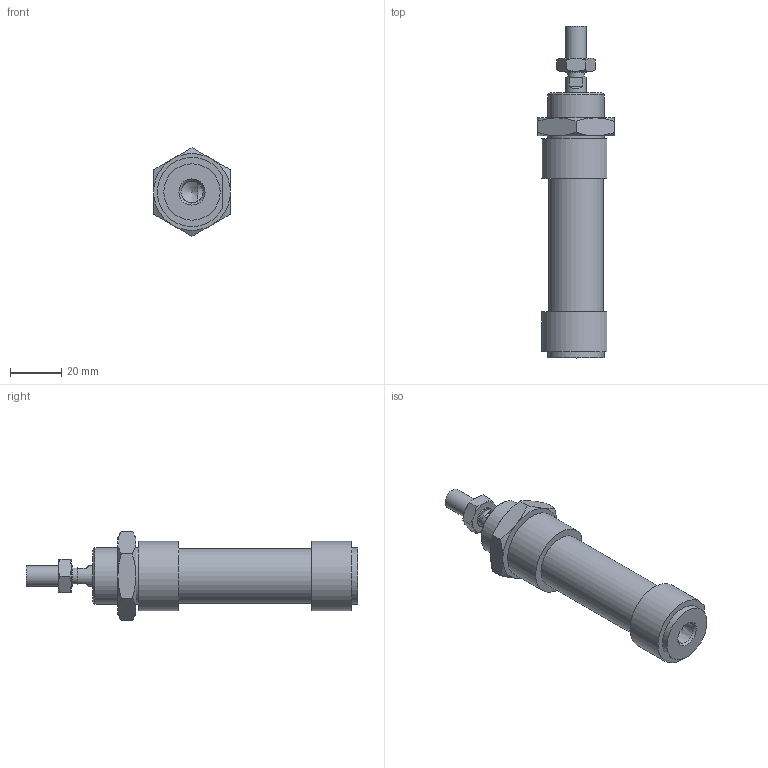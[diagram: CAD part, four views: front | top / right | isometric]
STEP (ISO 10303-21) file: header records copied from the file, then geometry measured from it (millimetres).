
FILE_DESCRIPTION((''),'2;1');
FILE_NAME('I:\Area Tecnica\Disegni\VARIE-3D\Componenti\1280\1281_##_####_#\1281_20_0015.iam.stp','2009-06-04T09:38:58',(''),(''),'Autodesk Inventor 2010','Autodesk Inventor 2010','');
FILE_SCHEMA(('AUTOMOTIVE_DESIGN { 1 0 10303 214 1 1 1 1 }'));
Length unit declared in the file: millimetre
Products named in the file (5): 1281_20_0015; C1281_20_15; S1280_20_15; 1200_20_05; 1200_20_06
Assembly tree (4 placements, depth 2):
  1281_20_0015
    C1281_20_15
    S1280_20_15
    1200_20_05
    1200_20_06
Bounding box: 30 x 129.5 x 34.64 mm (x, y, z)
Volume: 46612.9 mm3; surface area: 15230.2 mm2
Topology: 4 solids, 4 shells, 86 faces, 185 edges, 112 vertices
Faces by surface type: plane 36, cone 26, bspline 15, cylinder 9
Full cylindrical faces by diameter (mm): 6.5 x1, 8 x3, 21.2 x1, 22 x2
Entity records: 2537 total; most frequent: CARTESIAN_POINT 698, DIRECTION 332, ORIENTED_EDGE 310, EDGE_CURVE 155, AXIS2_PLACEMENT_3D 148, EDGE_LOOP 120, VERTEX_POINT 103, STYLED_ITEM 90
